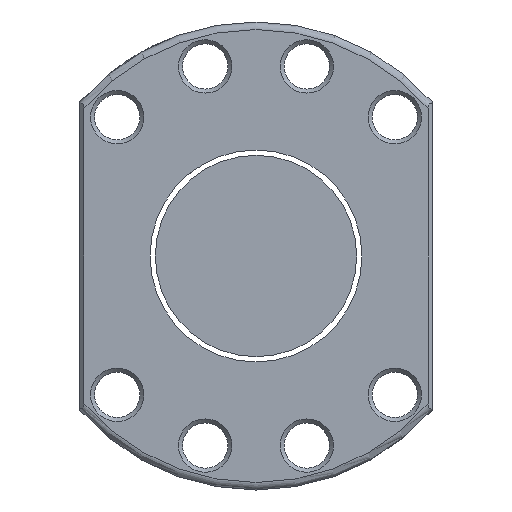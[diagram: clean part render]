
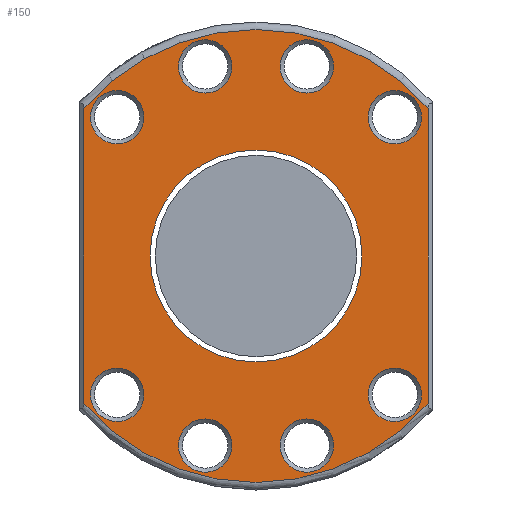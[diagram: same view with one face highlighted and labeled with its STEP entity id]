
A CAD part, left-side view. The second image highlights one B-rep face of the part: STEP entity #150.
In plain terms, the highlighted planar face has unit normal (-1, 0, 0).
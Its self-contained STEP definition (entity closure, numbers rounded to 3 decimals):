
#4 = ORIENTED_EDGE ( 'NONE', *, *, #2621, .T. ) ;
#49 = DIRECTION ( 'NONE',  ( 0., 0., 1. ) ) ;
#83 = EDGE_CURVE ( 'NONE', #2679, #2679, #2058, .T. ) ;
#91 = CIRCLE ( 'NONE', #668, 45. ) ;
#93 = CARTESIAN_POINT ( 'NONE',  ( -60., -10.094, -32.371 ) ) ;
#109 = VERTEX_POINT ( 'NONE', #1653 ) ;
#113 = EDGE_CURVE ( 'NONE', #3088, #3088, #3076, .T. ) ;
#140 = VERTEX_POINT ( 'NONE', #2818 ) ;
#142 = AXIS2_PLACEMENT_3D ( 'NONE', #3070, #497, #1510 ) ;
#145 = CIRCLE ( 'NONE', #2005, 5.3 ) ;
#150 = ADVANCED_FACE ( 'NONE', ( #2538, #3290, #1494, #795, #2820, #478, #249, #1759, #1229, #1281 ), #2520, .T. ) ;
#191 = DIRECTION ( 'NONE',  ( 0., 0., 1. ) ) ;
#219 = CARTESIAN_POINT ( 'NONE',  ( -60., 34.2, -29.247 ) ) ;
#231 = DIRECTION ( 'NONE',  ( -1., 0., 0. ) ) ;
#249 = FACE_BOUND ( 'NONE', #906, .T. ) ;
#256 = EDGE_CURVE ( 'NONE', #872, #872, #1203, .T. ) ;
#259 = DIRECTION ( 'NONE',  ( -1., 0., 0. ) ) ;
#261 = ORIENTED_EDGE ( 'NONE', *, *, #1908, .T. ) ;
#277 = VERTEX_POINT ( 'NONE', #3308 ) ;
#308 = EDGE_LOOP ( 'NONE', ( #719 ) ) ;
#328 = EDGE_CURVE ( 'NONE', #2649, #2649, #569, .T. ) ;
#342 = CARTESIAN_POINT ( 'NONE',  ( -60., 27.577, 32.877 ) ) ;
#361 = AXIS2_PLACEMENT_3D ( 'NONE', #2338, #3123, #571 ) ;
#420 = DIRECTION ( 'NONE',  ( 0., 0., 1. ) ) ;
#478 = FACE_BOUND ( 'NONE', #3300, .T. ) ;
#497 = DIRECTION ( 'NONE',  ( 1., 0., 0. ) ) ;
#533 = DIRECTION ( 'NONE',  ( 0., 0., 1. ) ) ;
#569 = CIRCLE ( 'NONE', #2002, 21.05 ) ;
#571 = DIRECTION ( 'NONE',  ( 0., 0., 1. ) ) ;
#578 = ORIENTED_EDGE ( 'NONE', *, *, #1489, .T. ) ;
#662 = DIRECTION ( 'NONE',  ( 1., 0., 0. ) ) ;
#665 = AXIS2_PLACEMENT_3D ( 'NONE', #1017, #231, #1265 ) ;
#668 = AXIS2_PLACEMENT_3D ( 'NONE', #1237, #259, #1783 ) ;
#674 = CARTESIAN_POINT ( 'NONE',  ( -60., -10.094, 37.671 ) ) ;
#697 = CARTESIAN_POINT ( 'NONE',  ( -60., -34.2, -29.247 ) ) ;
#702 = DIRECTION ( 'NONE',  ( 1., 0., 0. ) ) ;
#719 = ORIENTED_EDGE ( 'NONE', *, *, #328, .T. ) ;
#795 = FACE_BOUND ( 'NONE', #3303, .T. ) ;
#836 = VERTEX_POINT ( 'NONE', #697 ) ;
#853 = VERTEX_POINT ( 'NONE', #219 ) ;
#872 = VERTEX_POINT ( 'NONE', #3149 ) ;
#890 = EDGE_LOOP ( 'NONE', ( #261 ) ) ;
#906 = EDGE_LOOP ( 'NONE', ( #1542 ) ) ;
#908 = CARTESIAN_POINT ( 'NONE',  ( -60., 27.577, 27.577 ) ) ;
#996 = EDGE_CURVE ( 'NONE', #853, #836, #91, .T. ) ;
#1001 = DIRECTION ( 'NONE',  ( 1., 0., 0. ) ) ;
#1017 = CARTESIAN_POINT ( 'NONE',  ( -60., 46.5, 0. ) ) ;
#1076 = EDGE_LOOP ( 'NONE', ( #4 ) ) ;
#1147 = LINE ( 'NONE', #1624, #1841 ) ;
#1203 = CIRCLE ( 'NONE', #142, 5.3 ) ;
#1211 = CIRCLE ( 'NONE', #361, 45. ) ;
#1229 = FACE_OUTER_BOUND ( 'NONE', #1407, .T. ) ;
#1237 = CARTESIAN_POINT ( 'NONE',  ( -60., 0., 0. ) ) ;
#1248 = EDGE_CURVE ( 'NONE', #109, #109, #1948, .T. ) ;
#1259 = VECTOR ( 'NONE', #2784, 1000. ) ;
#1265 = DIRECTION ( 'NONE',  ( 0., 0., 1. ) ) ;
#1281 = FACE_BOUND ( 'NONE', #308, .T. ) ;
#1315 = AXIS2_PLACEMENT_3D ( 'NONE', #674, #1694, #2423 ) ;
#1339 = EDGE_CURVE ( 'NONE', #836, #277, #2750, .T. ) ;
#1350 = DIRECTION ( 'NONE',  ( 0., 0., 1. ) ) ;
#1358 = VERTEX_POINT ( 'NONE', #342 ) ;
#1407 = EDGE_LOOP ( 'NONE', ( #1485, #1690, #3228, #2480 ) ) ;
#1425 = CARTESIAN_POINT ( 'NONE',  ( -60., 10.094, -32.371 ) ) ;
#1473 = AXIS2_PLACEMENT_3D ( 'NONE', #2874, #1879, #49 ) ;
#1485 = ORIENTED_EDGE ( 'NONE', *, *, #1339, .T. ) ;
#1489 = EDGE_CURVE ( 'NONE', #140, #140, #2962, .T. ) ;
#1492 = CARTESIAN_POINT ( 'NONE',  ( -60., 34.2, 29.247 ) ) ;
#1494 = FACE_BOUND ( 'NONE', #1076, .T. ) ;
#1510 = DIRECTION ( 'NONE',  ( 0., 0., 1. ) ) ;
#1542 = ORIENTED_EDGE ( 'NONE', *, *, #83, .T. ) ;
#1548 = CARTESIAN_POINT ( 'NONE',  ( -60., 0., 0. ) ) ;
#1624 = CARTESIAN_POINT ( 'NONE',  ( -60., 34.2, -30.615 ) ) ;
#1653 = CARTESIAN_POINT ( 'NONE',  ( -60., -10.094, 42.971 ) ) ;
#1655 = ORIENTED_EDGE ( 'NONE', *, *, #113, .T. ) ;
#1690 = ORIENTED_EDGE ( 'NONE', *, *, #2601, .T. ) ;
#1694 = DIRECTION ( 'NONE',  ( 1., 0., 0. ) ) ;
#1759 = FACE_BOUND ( 'NONE', #2186, .T. ) ;
#1783 = DIRECTION ( 'NONE',  ( 0., 0., 1. ) ) ;
#1821 = CARTESIAN_POINT ( 'NONE',  ( -60., -10.094, -37.671 ) ) ;
#1841 = VECTOR ( 'NONE', #2155, 1000. ) ;
#1844 = DIRECTION ( 'NONE',  ( 0., 0., -1. ) ) ;
#1871 = DIRECTION ( 'NONE',  ( 1., 0., 0. ) ) ;
#1879 = DIRECTION ( 'NONE',  ( 1., 0., 0. ) ) ;
#1886 = CARTESIAN_POINT ( 'NONE',  ( -60., 0., -21.05 ) ) ;
#1908 = EDGE_CURVE ( 'NONE', #1358, #1358, #145, .T. ) ;
#1933 = CARTESIAN_POINT ( 'NONE',  ( -60., 10.094, 37.671 ) ) ;
#1936 = VERTEX_POINT ( 'NONE', #1425 ) ;
#1948 = CIRCLE ( 'NONE', #1315, 5.3 ) ;
#2002 = AXIS2_PLACEMENT_3D ( 'NONE', #1548, #2574, #1844 ) ;
#2004 = ORIENTED_EDGE ( 'NONE', *, *, #1248, .T. ) ;
#2005 = AXIS2_PLACEMENT_3D ( 'NONE', #908, #702, #191 ) ;
#2058 = CIRCLE ( 'NONE', #2600, 5.3 ) ;
#2072 = EDGE_CURVE ( 'NONE', #3009, #853, #1147, .T. ) ;
#2131 = CARTESIAN_POINT ( 'NONE',  ( -60., 10.094, -37.671 ) ) ;
#2155 = DIRECTION ( 'NONE',  ( 0., 0., -1. ) ) ;
#2186 = EDGE_LOOP ( 'NONE', ( #2004 ) ) ;
#2217 = CIRCLE ( 'NONE', #2492, 5.3 ) ;
#2270 = AXIS2_PLACEMENT_3D ( 'NONE', #1821, #1001, #533 ) ;
#2338 = CARTESIAN_POINT ( 'NONE',  ( -60., 0., 0. ) ) ;
#2360 = EDGE_LOOP ( 'NONE', ( #1655 ) ) ;
#2423 = DIRECTION ( 'NONE',  ( 0., 0., 1. ) ) ;
#2427 = EDGE_CURVE ( 'NONE', #1936, #1936, #2217, .T. ) ;
#2477 = VERTEX_POINT ( 'NONE', #2511 ) ;
#2480 = ORIENTED_EDGE ( 'NONE', *, *, #996, .T. ) ;
#2492 = AXIS2_PLACEMENT_3D ( 'NONE', #2131, #3156, #1350 ) ;
#2511 = CARTESIAN_POINT ( 'NONE',  ( -60., 27.577, -22.277 ) ) ;
#2520 = PLANE ( 'NONE',  #665 ) ;
#2538 = FACE_BOUND ( 'NONE', #2604, .T. ) ;
#2574 = DIRECTION ( 'NONE',  ( 1., 0., 0. ) ) ;
#2600 = AXIS2_PLACEMENT_3D ( 'NONE', #3150, #1871, #2914 ) ;
#2601 = EDGE_CURVE ( 'NONE', #277, #3009, #1211, .T. ) ;
#2604 = EDGE_LOOP ( 'NONE', ( #578 ) ) ;
#2621 = EDGE_CURVE ( 'NONE', #2477, #2477, #2916, .T. ) ;
#2649 = VERTEX_POINT ( 'NONE', #1886 ) ;
#2679 = VERTEX_POINT ( 'NONE', #3164 ) ;
#2750 = LINE ( 'NONE', #3034, #1259 ) ;
#2784 = DIRECTION ( 'NONE',  ( 0., 0., 1. ) ) ;
#2818 = CARTESIAN_POINT ( 'NONE',  ( -60., 10.094, 42.971 ) ) ;
#2820 = FACE_BOUND ( 'NONE', #2360, .T. ) ;
#2830 = ORIENTED_EDGE ( 'NONE', *, *, #2427, .T. ) ;
#2874 = CARTESIAN_POINT ( 'NONE',  ( -60., 27.577, -27.577 ) ) ;
#2914 = DIRECTION ( 'NONE',  ( 0., 0., 1. ) ) ;
#2916 = CIRCLE ( 'NONE', #1473, 5.3 ) ;
#2962 = CIRCLE ( 'NONE', #3233, 5.3 ) ;
#3009 = VERTEX_POINT ( 'NONE', #1492 ) ;
#3027 = ORIENTED_EDGE ( 'NONE', *, *, #256, .T. ) ;
#3034 = CARTESIAN_POINT ( 'NONE',  ( -60., -34.2, 30.615 ) ) ;
#3070 = CARTESIAN_POINT ( 'NONE',  ( -60., -27.577, -27.577 ) ) ;
#3076 = CIRCLE ( 'NONE', #2270, 5.3 ) ;
#3088 = VERTEX_POINT ( 'NONE', #93 ) ;
#3123 = DIRECTION ( 'NONE',  ( -1., 0., 0. ) ) ;
#3149 = CARTESIAN_POINT ( 'NONE',  ( -60., -27.577, -22.277 ) ) ;
#3150 = CARTESIAN_POINT ( 'NONE',  ( -60., -27.577, 27.577 ) ) ;
#3156 = DIRECTION ( 'NONE',  ( 1., 0., 0. ) ) ;
#3164 = CARTESIAN_POINT ( 'NONE',  ( -60., -27.577, 32.877 ) ) ;
#3228 = ORIENTED_EDGE ( 'NONE', *, *, #2072, .T. ) ;
#3233 = AXIS2_PLACEMENT_3D ( 'NONE', #1933, #662, #420 ) ;
#3290 = FACE_BOUND ( 'NONE', #890, .T. ) ;
#3300 = EDGE_LOOP ( 'NONE', ( #3027 ) ) ;
#3303 = EDGE_LOOP ( 'NONE', ( #2830 ) ) ;
#3308 = CARTESIAN_POINT ( 'NONE',  ( -60., -34.2, 29.247 ) ) ;
